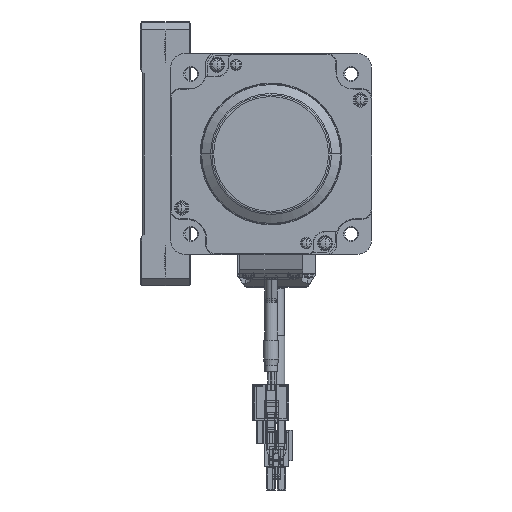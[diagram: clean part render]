
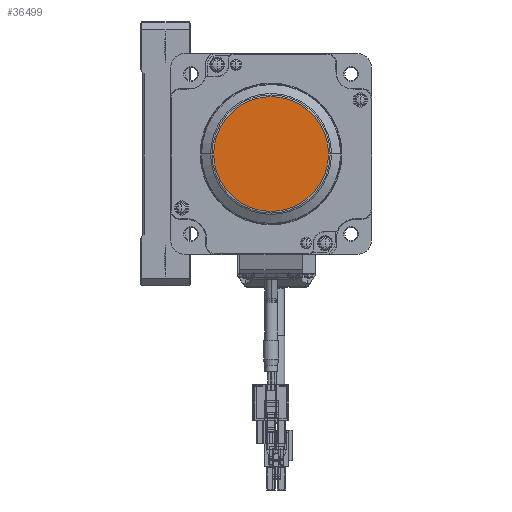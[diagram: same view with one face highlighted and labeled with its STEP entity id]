
A CAD part, front view. The second image highlights one B-rep face of the part: STEP entity #36499.
In plain terms, the highlighted planar face has unit normal (0, -1, 0) as drawn and (-1, 0, 0) by its records, which use the part's own axes.
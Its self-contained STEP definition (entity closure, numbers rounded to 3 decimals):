
#29480=CARTESIAN_POINT('',(-91.9,0.,0.));
#29481=DIRECTION('',(-1.,0.,0.));
#29482=DIRECTION('',(0.,0.,-1.));
#29483=AXIS2_PLACEMENT_3D('',#29480,#29481,#29482);
#29485=CARTESIAN_POINT('',(-91.9,0.,0.));
#29486=DIRECTION('',(-1.,0.,0.));
#29487=DIRECTION('',(0.,0.,1.));
#29488=AXIS2_PLACEMENT_3D('',#29485,#29486,#29487);
#31312=CARTESIAN_POINT('',(-91.9,0.,-22.84));
#31314=VERTEX_POINT('',#31312);
#31318=CARTESIAN_POINT('',(-91.9,0.,22.84));
#31319=VERTEX_POINT('',#31318);
#36489=CARTESIAN_POINT('',(-91.9,-22.,36.));
#36490=DIRECTION('',(1.,0.,0.));
#36491=DIRECTION('',(0.,0.,-1.));
#36492=AXIS2_PLACEMENT_3D('',#36489,#36490,#36491);
#36493=PLANE('',#36492);
#36494=ORIENTED_EDGE('',*,*,#36479,.F.);
#36496=ORIENTED_EDGE('',*,*,#36495,.F.);
#36497=EDGE_LOOP('',(#36494,#36496));
#36498=FACE_OUTER_BOUND('',#36497,.F.);
#36499=ADVANCED_FACE('',(#36498),#36493,.F.);
#29484=CIRCLE('',#29483,22.84);
#29489=CIRCLE('',#29488,22.84);
#36479=EDGE_CURVE('',#31314,#31319,#29484,.T.);
#36495=EDGE_CURVE('',#31319,#31314,#29489,.T.);
